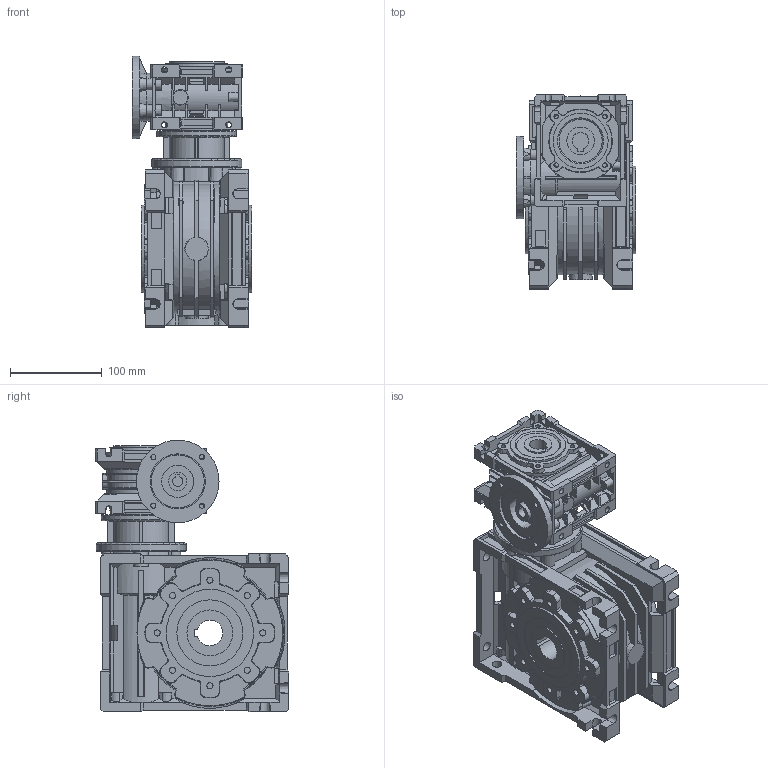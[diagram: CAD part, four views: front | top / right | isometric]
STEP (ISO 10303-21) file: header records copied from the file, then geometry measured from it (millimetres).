
FILE_DESCRIPTION( ( 'Unknown' ), '1' );
FILE_NAME( 'E:/services/configuratordownloads/customers/TRANSTECNO/CMM/download/3E56E8DED597E893272335C389D8682A/STEP/3E56E8DED597E893272335C389D8682A.3d.stp', 'Unknown', ( 'Unknown' ), ( 'Unknown' ), 'PSStep 10.1', 'Unknown', ' ' );
FILE_SCHEMA( ( 'AUTOMOTIVE_DESIGN { 1 0 10303 214 1 1 1 1 }' ) );
Length unit declared in the file: millimetre
Products named in the file (1): bb6f5e4c-b4fd-40fc-840a-3c61e7eabb55
Bounding box: 130 x 211 x 295.97 mm (x, y, z)
Volume: 3376358.7 mm3; surface area: 423517 mm2
Topology: 1 solids, 20 shells, 1616 faces, 4494 edges, 2943 vertices
Faces by surface type: plane 1121, cone 367, bspline 72, cylinder 54, torus 2
Full cylindrical faces by diameter (mm): 20 x2, 30 x2, 42 x1, 50 x2, 60 x3, 68 x1, 72 x2, 87 x1, 95 x2, 98 x1
Entity records: 70151 total; most frequent: CARTESIAN_POINT 17224, ORIENTED_EDGE 8694, DIRECTION 7776, EDGE_CURVE 4347, VERTEX_POINT 2887, AXIS2_PLACEMENT_3D 2642, LINE 2492, VECTOR 2492
